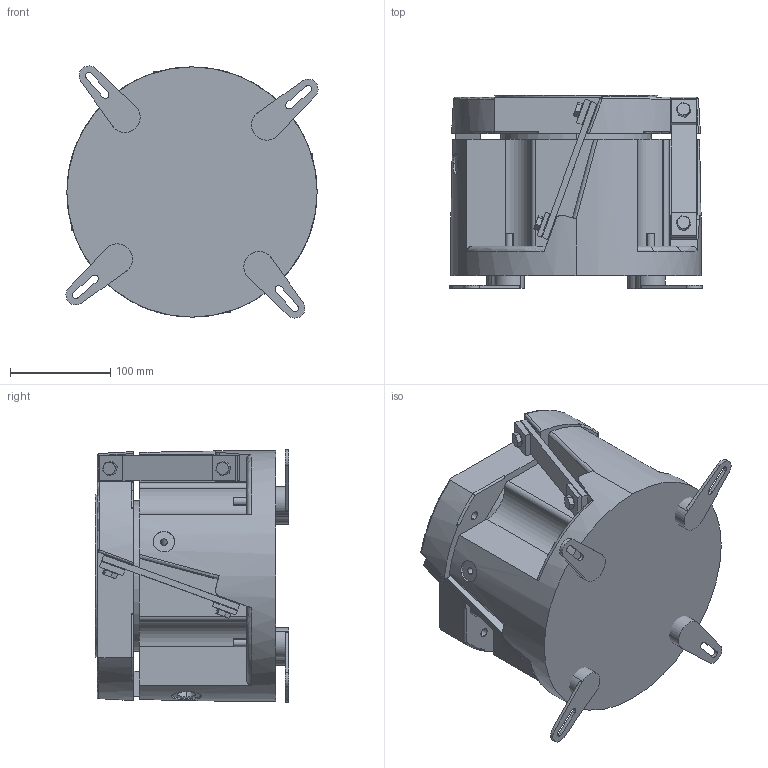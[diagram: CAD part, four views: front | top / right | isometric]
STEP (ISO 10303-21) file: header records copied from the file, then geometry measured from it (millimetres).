
FILE_DESCRIPTION (( 'STEP AP214' ), '1' );
FILE_NAME ('JM-250.STEP', '2022-04-21T04:12:41', ( '' ), ( '' ), 'SwSTEP 2.0', 'SolidWorks 2018', '' );
FILE_SCHEMA (( 'AUTOMOTIVE_DESIGN' ));
Length unit declared in the file: millimetre
Products named in the file (3): JM-250; 30   華褐珨极; JM250
Assembly tree (5 placements, depth 2):
  JM-250
    JM250
    30   華褐珨极  x4
Bounding box: 251.81 x 193 x 251.81 mm (x, y, z)
Volume: 6588056 mm3; surface area: 515733.8 mm2
Topology: 37 solids, 52 shells, 813 faces, 1916 edges, 1249 vertices
Faces by surface type: plane 452, cylinder 248, cone 80, torus 18, bspline 12, sphere 3
Entity records: 25920 total; most frequent: CARTESIAN_POINT 7593, DIRECTION 3640, ORIENTED_EDGE 3614, EDGE_CURVE 1807, AXIS2_PLACEMENT_3D 1352, VERTEX_POINT 1177, VECTOR 936, LINE 936
